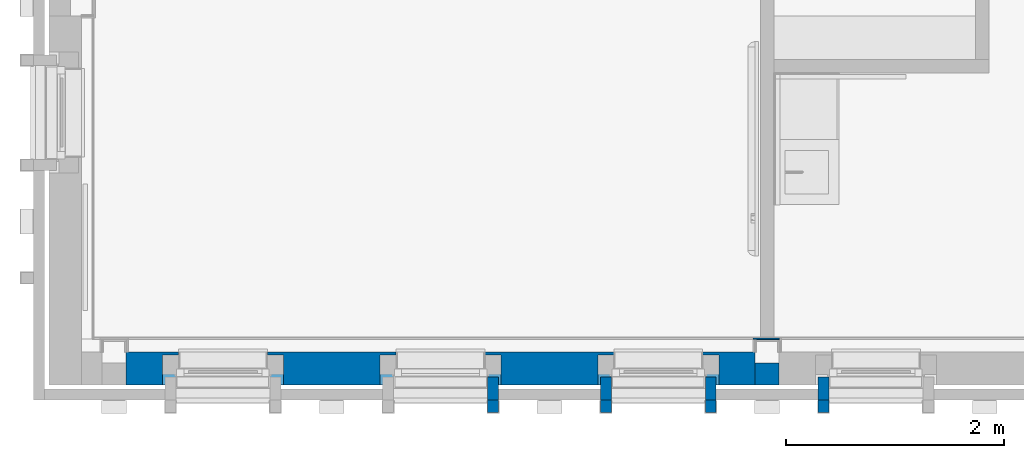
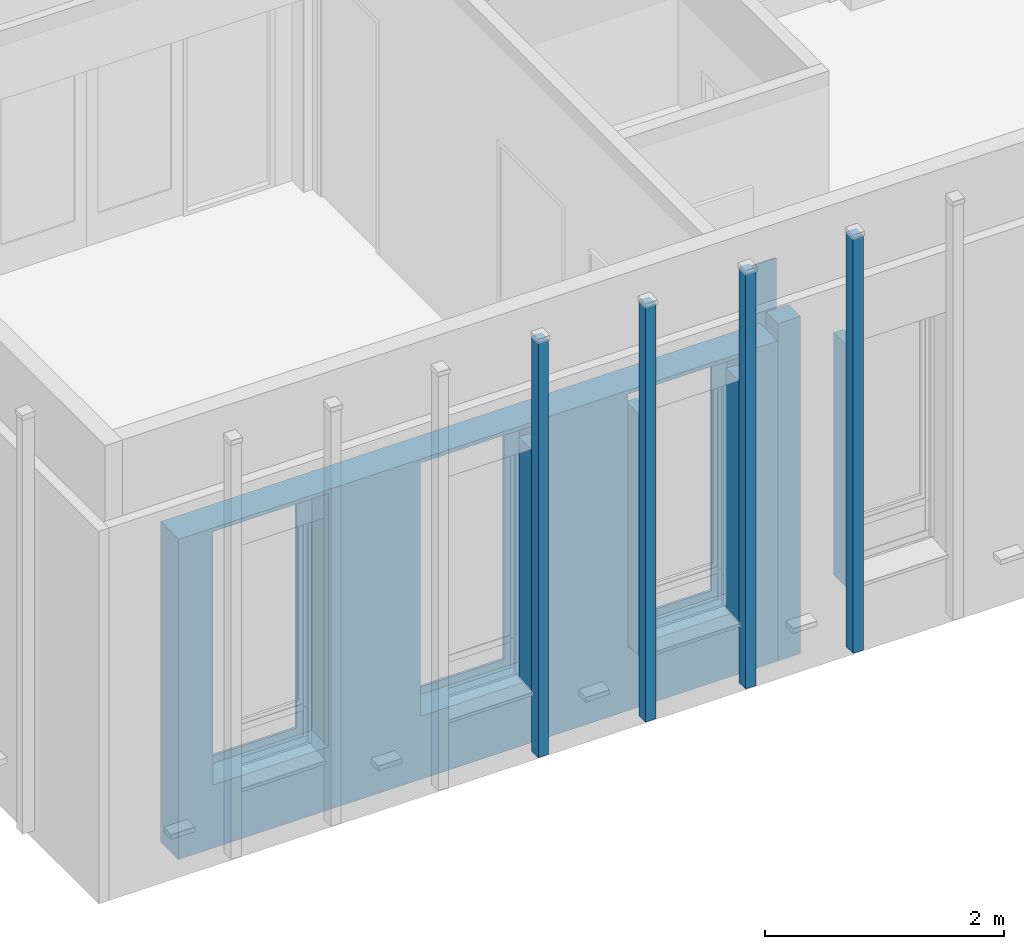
# One storey, part 25 of 118: 11 walls, 12 openings.
"""IFC2X3 building model written with IfcOpenShell, lengths in millimetres."""

from ifc_helpers import new_model, entity, si_unit, converted_unit, derived_unit, direction, frame, frame_2d, origin, place, context, subcontext, project, spatial, rectangle, extrude, faceted_brep, material, layer, layer_set, layer_usage, type_object, element, save


model = new_model("IFC2X3")

# Units and contexts
model_context = context("Model", 3, precision=0.01, world=origin(), true_north=direction((6.123031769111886e-17, 1.0)))
plan_context = context("Plan", 3, precision=0.01, world=origin(), true_north=direction((6.123031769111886e-17, 1.0)))
body_context = subcontext(model_context, "Body", "Model", "MODEL_VIEW")
ifc_project = project(units=[si_unit("LENGTHUNIT", "METRE", prefix="MILLI"), si_unit("AREAUNIT", "SQUARE_METRE"), si_unit("VOLUMEUNIT", "CUBIC_METRE"), converted_unit("PLANEANGLEUNIT", "DEGREE", entity("IfcRatioMeasure", 0.017453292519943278), si_unit("PLANEANGLEUNIT", "RADIAN"), dimensions=[0, 0, 0, 0, 0, 0, 0]), si_unit("MASSUNIT", "GRAM", prefix="KILO"), derived_unit("MASSDENSITYUNIT", [(si_unit("MASSUNIT", "GRAM", prefix="KILO"), 1), (si_unit("LENGTHUNIT", "METRE"), -3)]), derived_unit("IONCONCENTRATIONUNIT", [(si_unit("MASSUNIT", "GRAM", prefix="KILO"), 1), (si_unit("LENGTHUNIT", "METRE"), -3)]), derived_unit("MOMENTOFINERTIAUNIT", [(si_unit("LENGTHUNIT", "METRE"), 4)]), si_unit("TIMEUNIT", "SECOND"), si_unit("FREQUENCYUNIT", "HERTZ"), si_unit("THERMODYNAMICTEMPERATUREUNIT", "DEGREE_CELSIUS"), derived_unit("THERMALTRANSMITTANCEUNIT", [(si_unit("MASSUNIT", "GRAM", prefix="KILO"), 1), (si_unit("THERMODYNAMICTEMPERATUREUNIT", "KELVIN"), -1), (si_unit("TIMEUNIT", "SECOND"), -3)]), derived_unit("THERMALCONDUCTANCEUNIT", [(si_unit("MASSUNIT", "GRAM", prefix="KILO"), 1), (si_unit("THERMODYNAMICTEMPERATUREUNIT", "KELVIN"), -1), (si_unit("TIMEUNIT", "SECOND"), -3), (si_unit("LENGTHUNIT", "METRE"), 1)]), derived_unit("VOLUMETRICFLOWRATEUNIT", [(si_unit("LENGTHUNIT", "METRE"), 3), (si_unit("TIMEUNIT", "SECOND"), -1)]), derived_unit("MASSFLOWRATEUNIT", [(si_unit("MASSUNIT", "GRAM", prefix="KILO"), 1), (si_unit("TIMEUNIT", "SECOND"), -1)]), derived_unit("ROTATIONALFREQUENCYUNIT", [(si_unit("TIMEUNIT", "SECOND"), -1)]), si_unit("ELECTRICCURRENTUNIT", "AMPERE"), si_unit("ELECTRICVOLTAGEUNIT", "VOLT"), si_unit("POWERUNIT", "WATT"), si_unit("FORCEUNIT", "NEWTON", prefix="KILO"), si_unit("ILLUMINANCEUNIT", "LUX"), si_unit("LUMINOUSFLUXUNIT", "LUMEN"), si_unit("LUMINOUSINTENSITYUNIT", "CANDELA"), derived_unit("USERDEFINED", [(si_unit("MASSUNIT", "GRAM", prefix="KILO"), -1), (si_unit("LENGTHUNIT", "METRE"), -2), (si_unit("TIMEUNIT", "SECOND"), 3), (si_unit("LUMINOUSFLUXUNIT", "LUMEN"), 1)]), derived_unit("USERDEFINED", [(si_unit("MASSUNIT", "GRAM", prefix="KILO"), 1), (si_unit("TIMEUNIT", "SECOND"), -3), (si_unit("LENGTHUNIT", "METRE"), 3), (si_unit("ELECTRICCURRENTUNIT", "AMPERE"), -2)]), derived_unit("SOUNDPOWERUNIT", [(si_unit("MASSUNIT", "GRAM", prefix="KILO"), 1), (si_unit("TIMEUNIT", "SECOND"), -3), (si_unit("LENGTHUNIT", "METRE"), 2)]), derived_unit("SOUNDPRESSUREUNIT", [(si_unit("MASSUNIT", "GRAM", prefix="KILO"), 1), (si_unit("LENGTHUNIT", "METRE"), -1), (si_unit("TIMEUNIT", "SECOND"), -2)]), derived_unit("LINEARVELOCITYUNIT", [(si_unit("LENGTHUNIT", "METRE"), 1), (si_unit("TIMEUNIT", "SECOND"), -1)]), si_unit("PRESSUREUNIT", "PASCAL"), derived_unit("USERDEFINED", [(si_unit("MASSUNIT", "GRAM", prefix="KILO"), 1), (si_unit("LENGTHUNIT", "METRE"), -2), (si_unit("TIMEUNIT", "SECOND"), -2)]), derived_unit("LINEARFORCEUNIT", [(si_unit("MASSUNIT", "GRAM", prefix="KILO"), 1), (si_unit("TIMEUNIT", "SECOND"), -2)]), derived_unit("PLANARFORCEUNIT", [(si_unit("MASSUNIT", "GRAM", prefix="KILO"), 1), (si_unit("LENGTHUNIT", "METRE"), -1), (si_unit("TIMEUNIT", "SECOND"), -2)]), derived_unit("SPECIFICHEATCAPACITYUNIT", [(si_unit("THERMODYNAMICTEMPERATUREUNIT", "KELVIN"), -1), (si_unit("LENGTHUNIT", "METRE"), 2), (si_unit("TIMEUNIT", "SECOND"), -2)]), derived_unit("HEATINGVALUEUNIT", [(si_unit("LENGTHUNIT", "METRE"), 2), (si_unit("TIMEUNIT", "SECOND"), -2)]), derived_unit("VAPORPERMEABILITYUNIT", [(si_unit("LENGTHUNIT", "METRE"), -1), (si_unit("TIMEUNIT", "SECOND"), 1)]), derived_unit("DYNAMICVISCOSITYUNIT", [(si_unit("MASSUNIT", "GRAM", prefix="KILO"), 1), (si_unit("TIMEUNIT", "SECOND"), -1), (si_unit("LENGTHUNIT", "METRE"), -1)]), derived_unit("THERMALEXPANSIONCOEFFICIENTUNIT", [(si_unit("THERMODYNAMICTEMPERATUREUNIT", "KELVIN"), -1)]), derived_unit("MODULUSOFELASTICITYUNIT", [(si_unit("MASSUNIT", "GRAM", prefix="KILO"), 1), (si_unit("LENGTHUNIT", "METRE"), -1), (si_unit("TIMEUNIT", "SECOND"), -2)]), derived_unit("ISOTHERMALMOISTURECAPACITYUNIT", [(si_unit("LENGTHUNIT", "METRE"), 3), (si_unit("MASSUNIT", "GRAM", prefix="KILO"), -1)]), derived_unit("MOISTUREDIFFUSIVITYUNIT", [(si_unit("TIMEUNIT", "SECOND"), -1), (si_unit("LENGTHUNIT", "METRE"), 2)])], contexts=[model_context, plan_context])

# Site, building, storey
site_placement = place(None, origin())
site = spatial("IfcSite", under=ifc_project, at=site_placement, Name="Locatie", CompositionType="ELEMENT")
building_placement = place(site_placement, origin())
building = spatial("IfcBuilding", under=site, at=building_placement, Name="Bouwwerk", CompositionType="ELEMENT")
storey_placement = place(building_placement, frame((0.0, 0.0, 7800.0)))
storey = spatial("IfcBuildingStorey", under=building, at=storey_placement, Name="02 tweede verdieping", CompositionType="ELEMENT", Elevation=7800.000000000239)

# Wall, openings
ifc_material_1 = material(Name="n7_isolatie_glaswol")
ifc_layer_1 = layer(ifc_material_1, 30.0)
ifc_layer_2 = layer(ifc_material_1, 245.0)
ifc_material_2 = material(Name="i4_multiplex")
ifc_layer_3 = layer(ifc_material_2, 12.0)
ifc_material_3 = material(Name="f7_gipsvezel")
ifc_layer_4 = layer(ifc_material_3, 13.000000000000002)
ifc_layer_set_1 = layer_set([ifc_layer_1, ifc_layer_2, ifc_layer_3, ifc_layer_4], Name="Basic Wall:NLRS_22_WA_HSB bispouw 30-245-12-13 glaswol_gen_ISR")
ifc_layer_usage_1 = layer_usage(ifc_layer_set_1, "AXIS2", "NEGATIVE", 150.0)
wall_type_1 = type_object("IfcWallType", Name="Basic Wall:NLRS_22_WA_HSB bispouw 30-245-12-13 glaswol_gen_ISR", PredefinedType="STANDARD", material=ifc_layer_set_1)
wall_1_placement = place(storey_placement, frame((16190.0, 9850.0, -30.0), z_axis=(0.0, 0.0, 1.0), x_axis=(-1.0, 0.0, 0.0)))
wall_1 = element("IfcWallStandardCase", 1, at=wall_1_placement, inside=storey, type_object=wall_type_1, material=ifc_layer_usage_1, Name="Basic Wall:NLRS_22_WA_HSB bispouw 30-245-12-13 glaswol_gen_ISR", ObjectType="Basic Wall:NLRS_22_WA_HSB bispouw 30-245-12-13 glaswol_gen_ISR", context=body_context, shape_type="SweptSolid", body=[
    extrude(rectangle(XDim=5779.999999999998, YDim=300.0000000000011, at=frame_2d((2889.999999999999, 0.0), x_axis=(-1.0, 0.0))), origin(), (0.0, 0.0, 1.0), 3265.9999999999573),
])
opening_1_placement = place(wall_1_placement, frame((-10554.0, 290.0, 633.0)))
element("IfcOpeningElement", 2, at=opening_1_placement, cuts=wall_1, Name="Basic Wall:NLRS_22_WA_HSB bispouw 30-245-12-13 glaswol_gen_ISR", ObjectType="Opening", context=body_context, shape_type="Brep", body=[
    faceted_brep([(-24.0, -100.0, 2472.0), (-103.0, -100.0, 2472.0), (-103.0, -100.0, 42.0), (-1009.0, -100.0, 42.0), (-1009.0, -100.0, 2472.0), (-1088.0, -100.0, 2472.0), (-1088.0, -100.0, 0.0), (-24.0, -100.0, 0.0), (-1088.0, 0.0, 2472.0), (-24.0, 0.0, 2472.0), (-24.0, 0.0, 0.0), (-1088.0, 0.0, 0.0), (-1112.0, -415.0, 2594.0), (-1112.0, -415.0, 11.0), (0.0, -415.0, 11.0), (0.0, -415.0, 2594.0), (-964.0, -415.0, 2443.0), (-148.0, -415.0, 2443.0), (-148.0, -415.0, 87.0), (-964.0, -415.0, 87.0), (-1112.0, -140.0, 2594.0), (0.0, -140.0, 2594.0), (0.0, -140.0, 11.0), (-1112.0, -140.0, 11.0), (-1009.0, -140.0, 42.0), (-103.0, -140.0, 42.0), (-103.0, -140.0, 2508.0), (-1009.0, -140.0, 2508.0), (-103.0, -100.0, 2508.0), (-1009.0, -100.0, 2508.0), (-964.0, -615.0, 2443.0), (-964.0, -615.0, 87.0), (-148.0, -615.0, 87.0), (-148.0, -615.0, 2443.0)], [[[0, 1, 2, 3, 4, 5, 6, 7]], [[8, 9, 10, 11]], [[5, 8, 11, 6]], [[6, 11, 10, 7]], [[7, 10, 9, 0]], [[8, 5, 4, 1, 0, 9]], [[12, 13, 14, 15], [16, 17, 18, 19]], [[20, 21, 22, 23], [24, 25, 26, 27]], [[12, 20, 23, 13]], [[13, 23, 22, 14]], [[14, 22, 21, 15]], [[15, 21, 20, 12]], [[28, 1, 4, 29]], [[24, 27, 29, 4, 3]], [[3, 2, 25, 24]], [[2, 1, 28, 26, 25]], [[29, 27, 26, 28]], [[30, 31, 32, 33]], [[30, 16, 19, 31]], [[31, 19, 18, 32]], [[32, 18, 17, 33]], [[33, 17, 16, 30]]]),
])
opening_2_placement = place(wall_1_placement, frame((-8554.0, 290.0, 633.0)))
element("IfcOpeningElement", 3, at=opening_2_placement, cuts=wall_1, Name="Basic Wall:NLRS_22_WA_HSB bispouw 30-245-12-13 glaswol_gen_ISR", ObjectType="Opening", context=body_context, shape_type="Brep", body=[
    faceted_brep([(-24.0, -100.0, 2472.0), (-103.0, -100.0, 2472.0), (-103.0, -100.0, 42.0), (-1009.0, -100.0, 42.0), (-1009.0, -100.0, 2472.0), (-1088.0, -100.0, 2472.0), (-1088.0, -100.0, 0.0), (-24.0, -100.0, 0.0), (-1088.0, 0.0, 2472.0), (-24.0, 0.0, 2472.0), (-24.0, 0.0, 0.0), (-1088.0, 0.0, 0.0), (-1112.0, -415.0, 2594.0), (-1112.0, -415.0, 11.0), (0.0, -415.0, 11.0), (0.0, -415.0, 2594.0), (-964.0, -415.0, 2443.0), (-148.0, -415.0, 2443.0), (-148.0, -415.0, 87.0), (-964.0, -415.0, 87.0), (-1112.0, -140.0, 2594.0), (0.0, -140.0, 2594.0), (0.0, -140.0, 11.0), (-1112.0, -140.0, 11.0), (-1009.0, -140.0, 42.0), (-103.0, -140.0, 42.0), (-103.0, -140.0, 2508.0), (-1009.0, -140.0, 2508.0), (-103.0, -100.0, 2508.0), (-1009.0, -100.0, 2508.0), (-964.0, -615.0, 2443.0), (-964.0, -615.0, 87.0), (-148.0, -615.0, 87.0), (-148.0, -615.0, 2443.0)], [[[0, 1, 2, 3, 4, 5, 6, 7]], [[8, 9, 10, 11]], [[5, 8, 11, 6]], [[6, 11, 10, 7]], [[7, 10, 9, 0]], [[8, 5, 4, 1, 0, 9]], [[12, 13, 14, 15], [16, 17, 18, 19]], [[20, 21, 22, 23], [24, 25, 26, 27]], [[12, 20, 23, 13]], [[13, 23, 22, 14]], [[14, 22, 21, 15]], [[15, 21, 20, 12]], [[28, 1, 4, 29]], [[24, 27, 29, 4, 3]], [[3, 2, 25, 24]], [[2, 1, 28, 26, 25]], [[29, 27, 26, 28]], [[30, 31, 32, 33]], [[30, 16, 19, 31]], [[31, 19, 18, 32]], [[32, 18, 17, 33]], [[33, 17, 16, 30]]]),
])
opening_3_placement = place(wall_1_placement, frame((-16554.0, 290.0, 633.0)))
element("IfcOpeningElement", 4, at=opening_3_placement, cuts=wall_1, Name="Basic Wall:NLRS_22_WA_HSB bispouw 30-245-12-13 glaswol_gen_ISR", ObjectType="Opening", context=body_context, shape_type="Brep", body=[
    faceted_brep([(-24.0, -100.0, 2472.0), (-103.0, -100.0, 2472.0), (-103.0, -100.0, 42.0), (-1009.0, -100.0, 42.0), (-1009.0, -100.0, 2472.0), (-1088.0, -100.0, 2472.0), (-1088.0, -100.0, 0.0), (-24.0, -100.0, 0.0), (-1088.0, 0.0, 2472.0), (-24.0, 0.0, 2472.0), (-24.0, 0.0, 0.0), (-1088.0, 0.0, 0.0), (-1112.0, -415.0, 2594.0), (-1112.0, -415.0, 11.0), (0.0, -415.0, 11.0), (0.0, -415.0, 2594.0), (-964.0, -415.0, 2443.0), (-148.0, -415.0, 2443.0), (-148.0, -415.0, 87.0), (-964.0, -415.0, 87.0), (-1112.0, -140.0, 2594.0), (0.0, -140.0, 2594.0), (0.0, -140.0, 11.0), (-1112.0, -140.0, 11.0), (-1009.0, -140.0, 42.0), (-103.0, -140.0, 42.0), (-103.0, -140.0, 2508.0), (-1009.0, -140.0, 2508.0), (-103.0, -100.0, 2508.0), (-1009.0, -100.0, 2508.0), (-964.0, -615.0, 2443.0), (-964.0, -615.0, 87.0), (-148.0, -615.0, 87.0), (-148.0, -615.0, 2443.0)], [[[0, 1, 2, 3, 4, 5, 6, 7]], [[8, 9, 10, 11]], [[5, 8, 11, 6]], [[6, 11, 10, 7]], [[7, 10, 9, 0]], [[8, 5, 4, 1, 0, 9]], [[12, 13, 14, 15], [16, 17, 18, 19]], [[20, 21, 22, 23], [24, 25, 26, 27]], [[12, 20, 23, 13]], [[13, 23, 22, 14]], [[14, 22, 21, 15]], [[15, 21, 20, 12]], [[28, 1, 4, 29]], [[24, 27, 29, 4, 3]], [[3, 2, 25, 24]], [[2, 1, 28, 26, 25]], [[29, 27, 26, 28]], [[30, 31, 32, 33]], [[30, 16, 19, 31]], [[31, 19, 18, 32]], [[32, 18, 17, 33]], [[33, 17, 16, 30]]]),
])
opening_4_placement = place(wall_1_placement, frame((-14554.0, 290.0, 633.0)))
element("IfcOpeningElement", 5, at=opening_4_placement, cuts=wall_1, Name="Basic Wall:NLRS_22_WA_HSB bispouw 30-245-12-13 glaswol_gen_ISR", ObjectType="Opening", context=body_context, shape_type="Brep", body=[
    faceted_brep([(-24.0, -100.0, 2472.0), (-103.0, -100.0, 2472.0), (-103.0, -100.0, 42.0), (-1009.0, -100.0, 42.0), (-1009.0, -100.0, 2472.0), (-1088.0, -100.0, 2472.0), (-1088.0, -100.0, 0.0), (-24.0, -100.0, 0.0), (-1088.0, 0.0, 2472.0), (-24.0, 0.0, 2472.0), (-24.0, 0.0, 0.0), (-1088.0, 0.0, 0.0), (-1112.0, -415.0, 2594.0), (-1112.0, -415.0, 11.0), (0.0, -415.0, 11.0), (0.0, -415.0, 2594.0), (-964.0, -415.0, 2443.0), (-148.0, -415.0, 2443.0), (-148.0, -415.0, 87.0), (-964.0, -415.0, 87.0), (-1112.0, -140.0, 2594.0), (0.0, -140.0, 2594.0), (0.0, -140.0, 11.0), (-1112.0, -140.0, 11.0), (-1009.0, -140.0, 42.0), (-103.0, -140.0, 42.0), (-103.0, -140.0, 2508.0), (-1009.0, -140.0, 2508.0), (-103.0, -100.0, 2508.0), (-1009.0, -100.0, 2508.0), (-964.0, -615.0, 2443.0), (-964.0, -615.0, 87.0), (-148.0, -615.0, 87.0), (-148.0, -615.0, 2443.0)], [[[0, 1, 2, 3, 4, 5, 6, 7]], [[8, 9, 10, 11]], [[5, 8, 11, 6]], [[6, 11, 10, 7]], [[7, 10, 9, 0]], [[8, 5, 4, 1, 0, 9]], [[12, 13, 14, 15], [16, 17, 18, 19]], [[20, 21, 22, 23], [24, 25, 26, 27]], [[12, 20, 23, 13]], [[13, 23, 22, 14]], [[14, 22, 21, 15]], [[15, 21, 20, 12]], [[28, 1, 4, 29]], [[24, 27, 29, 4, 3]], [[3, 2, 25, 24]], [[2, 1, 28, 26, 25]], [[29, 27, 26, 28]], [[30, 31, 32, 33]], [[30, 16, 19, 31]], [[31, 19, 18, 32]], [[32, 18, 17, 33]], [[33, 17, 16, 30]]]),
])
opening_5_placement = place(wall_1_placement, frame((-12554.0, 290.0, 633.0)))
element("IfcOpeningElement", 6, at=opening_5_placement, cuts=wall_1, Name="Basic Wall:NLRS_22_WA_HSB bispouw 30-245-12-13 glaswol_gen_ISR", ObjectType="Opening", context=body_context, shape_type="Brep", body=[
    faceted_brep([(-24.0, -100.0, 2472.0), (-103.0, -100.0, 2472.0), (-103.0, -100.0, 42.0), (-1009.0, -100.0, 42.0), (-1009.0, -100.0, 2472.0), (-1088.0, -100.0, 2472.0), (-1088.0, -100.0, 0.0), (-24.0, -100.0, 0.0), (-1088.0, 0.0, 2472.0), (-24.0, 0.0, 2472.0), (-24.0, 0.0, 0.0), (-1088.0, 0.0, 0.0), (-1112.0, -415.0, 2594.0), (-1112.0, -415.0, 11.0), (0.0, -415.0, 11.0), (0.0, -415.0, 2594.0), (-964.0, -415.0, 2443.0), (-148.0, -415.0, 2443.0), (-148.0, -415.0, 87.0), (-964.0, -415.0, 87.0), (-1112.0, -140.0, 2594.0), (0.0, -140.0, 2594.0), (0.0, -140.0, 11.0), (-1112.0, -140.0, 11.0), (-1009.0, -140.0, 42.0), (-103.0, -140.0, 42.0), (-103.0, -140.0, 2508.0), (-1009.0, -140.0, 2508.0), (-103.0, -100.0, 2508.0), (-1009.0, -100.0, 2508.0), (-964.0, -615.0, 2443.0), (-964.0, -615.0, 87.0), (-148.0, -615.0, 87.0), (-148.0, -615.0, 2443.0)], [[[0, 1, 2, 3, 4, 5, 6, 7]], [[8, 9, 10, 11]], [[5, 8, 11, 6]], [[6, 11, 10, 7]], [[7, 10, 9, 0]], [[8, 5, 4, 1, 0, 9]], [[12, 13, 14, 15], [16, 17, 18, 19]], [[20, 21, 22, 23], [24, 25, 26, 27]], [[12, 20, 23, 13]], [[13, 23, 22, 14]], [[14, 22, 21, 15]], [[15, 21, 20, 12]], [[28, 1, 4, 29]], [[24, 27, 29, 4, 3]], [[3, 2, 25, 24]], [[2, 1, 28, 26, 25]], [[29, 27, 26, 28]], [[30, 31, 32, 33]], [[30, 16, 19, 31]], [[31, 19, 18, 32]], [[32, 18, 17, 33]], [[33, 17, 16, 30]]]),
])
opening_6_placement = place(wall_1_placement, frame((-4554.0, 290.0, 633.0)))
element("IfcOpeningElement", 7, at=opening_6_placement, cuts=wall_1, Name="Basic Wall:NLRS_22_WA_HSB bispouw 30-245-12-13 glaswol_gen_ISR", ObjectType="Opening", context=body_context, shape_type="Brep", body=[
    faceted_brep([(-24.0, -100.0, 2472.0), (-103.0, -100.0, 2472.0), (-103.0, -100.0, 42.0), (-1009.0, -100.0, 42.0), (-1009.0, -100.0, 2472.0), (-1088.0, -100.0, 2472.0), (-1088.0, -100.0, 0.0), (-24.0, -100.0, 0.0), (-1088.0, 0.0, 2472.0), (-24.0, 0.0, 2472.0), (-24.0, 0.0, 0.0), (-1088.0, 0.0, 0.0), (-1112.0, -415.0, 2594.0), (-1112.0, -415.0, 11.0), (0.0, -415.0, 11.0), (0.0, -415.0, 2594.0), (-964.0, -415.0, 2443.0), (-148.0, -415.0, 2443.0), (-148.0, -415.0, 87.0), (-964.0, -415.0, 87.0), (-1112.0, -140.0, 2594.0), (0.0, -140.0, 2594.0), (0.0, -140.0, 11.0), (-1112.0, -140.0, 11.0), (-1009.0, -140.0, 42.0), (-103.0, -140.0, 42.0), (-103.0, -140.0, 2508.0), (-1009.0, -140.0, 2508.0), (-103.0, -100.0, 2508.0), (-1009.0, -100.0, 2508.0), (-964.0, -615.0, 2443.0), (-964.0, -615.0, 87.0), (-148.0, -615.0, 87.0), (-148.0, -615.0, 2443.0)], [[[0, 1, 2, 3, 4, 5, 6, 7]], [[8, 9, 10, 11]], [[5, 8, 11, 6]], [[6, 11, 10, 7]], [[7, 10, 9, 0]], [[8, 5, 4, 1, 0, 9]], [[12, 13, 14, 15], [16, 17, 18, 19]], [[20, 21, 22, 23], [24, 25, 26, 27]], [[12, 20, 23, 13]], [[13, 23, 22, 14]], [[14, 22, 21, 15]], [[15, 21, 20, 12]], [[28, 1, 4, 29]], [[24, 27, 29, 4, 3]], [[3, 2, 25, 24]], [[2, 1, 28, 26, 25]], [[29, 27, 26, 28]], [[30, 31, 32, 33]], [[30, 16, 19, 31]], [[31, 19, 18, 32]], [[32, 18, 17, 33]], [[33, 17, 16, 30]]]),
])
opening_7_placement = place(wall_1_placement, frame((-2554.0, 290.0, 633.0)))
element("IfcOpeningElement", 8, at=opening_7_placement, cuts=wall_1, Name="Basic Wall:NLRS_22_WA_HSB bispouw 30-245-12-13 glaswol_gen_ISR", ObjectType="Opening", context=body_context, shape_type="Brep", body=[
    faceted_brep([(-24.0, -100.0, 2472.0), (-103.0, -100.0, 2472.0), (-103.0, -100.0, 42.0), (-1009.0, -100.0, 42.0), (-1009.0, -100.0, 2472.0), (-1088.0, -100.0, 2472.0), (-1088.0, -100.0, 0.0), (-24.0, -100.0, 0.0), (-1088.0, 0.0, 2472.0), (-24.0, 0.0, 2472.0), (-24.0, 0.0, 0.0), (-1088.0, 0.0, 0.0), (-1112.0, -415.0, 2594.0), (-1112.0, -415.0, 11.0), (0.0, -415.0, 11.0), (0.0, -415.0, 2594.0), (-964.0, -415.0, 2443.0), (-148.0, -415.0, 2443.0), (-148.0, -415.0, 87.0), (-964.0, -415.0, 87.0), (-1112.0, -140.0, 2594.0), (0.0, -140.0, 2594.0), (0.0, -140.0, 11.0), (-1112.0, -140.0, 11.0), (-1009.0, -140.0, 42.0), (-103.0, -140.0, 42.0), (-103.0, -140.0, 2508.0), (-1009.0, -140.0, 2508.0), (-103.0, -100.0, 2508.0), (-1009.0, -100.0, 2508.0), (-964.0, -615.0, 2443.0), (-964.0, -615.0, 87.0), (-148.0, -615.0, 87.0), (-148.0, -615.0, 2443.0)], [[[0, 1, 2, 3, 4, 5, 6, 7]], [[8, 9, 10, 11]], [[5, 8, 11, 6]], [[6, 11, 10, 7]], [[7, 10, 9, 0]], [[8, 5, 4, 1, 0, 9]], [[12, 13, 14, 15], [16, 17, 18, 19]], [[20, 21, 22, 23], [24, 25, 26, 27]], [[12, 20, 23, 13]], [[13, 23, 22, 14]], [[14, 22, 21, 15]], [[15, 21, 20, 12]], [[28, 1, 4, 29]], [[24, 27, 29, 4, 3]], [[3, 2, 25, 24]], [[2, 1, 28, 26, 25]], [[29, 27, 26, 28]], [[30, 31, 32, 33]], [[30, 16, 19, 31]], [[31, 19, 18, 32]], [[32, 18, 17, 33]], [[33, 17, 16, 30]]]),
])
opening_8_placement = place(wall_1_placement, frame((-554.0, 290.0, 633.0)))
element("IfcOpeningElement", 9, at=opening_8_placement, cuts=wall_1, Name="Basic Wall:NLRS_22_WA_HSB bispouw 30-245-12-13 glaswol_gen_ISR", ObjectType="Opening", context=body_context, shape_type="Brep", body=[
    faceted_brep([(-24.0, -100.0, 2472.0), (-103.0, -100.0, 2472.0), (-103.0, -100.0, 42.0), (-1009.0, -100.0, 42.0), (-1009.0, -100.0, 2472.0), (-1088.0, -100.0, 2472.0), (-1088.0, -100.0, 0.0), (-24.0, -100.0, 0.0), (-1088.0, 0.0, 2472.0), (-24.0, 0.0, 2472.0), (-24.0, 0.0, 0.0), (-1088.0, 0.0, 0.0), (-1112.0, -415.0, 2594.0), (-1112.0, -415.0, 11.0), (0.0, -415.0, 11.0), (0.0, -415.0, 2594.0), (-964.0, -415.0, 2443.0), (-148.0, -415.0, 2443.0), (-148.0, -415.0, 87.0), (-964.0, -415.0, 87.0), (-1112.0, -140.0, 2594.0), (0.0, -140.0, 2594.0), (0.0, -140.0, 11.0), (-1112.0, -140.0, 11.0), (-1009.0, -140.0, 42.0), (-103.0, -140.0, 42.0), (-103.0, -140.0, 2508.0), (-1009.0, -140.0, 2508.0), (-103.0, -100.0, 2508.0), (-1009.0, -100.0, 2508.0), (-964.0, -615.0, 2443.0), (-964.0, -615.0, 87.0), (-148.0, -615.0, 87.0), (-148.0, -615.0, 2443.0)], [[[0, 1, 2, 3, 4, 5, 6, 7]], [[8, 9, 10, 11]], [[5, 8, 11, 6]], [[6, 11, 10, 7]], [[7, 10, 9, 0]], [[8, 5, 4, 1, 0, 9]], [[12, 13, 14, 15], [16, 17, 18, 19]], [[20, 21, 22, 23], [24, 25, 26, 27]], [[12, 20, 23, 13]], [[13, 23, 22, 14]], [[14, 22, 21, 15]], [[15, 21, 20, 12]], [[28, 1, 4, 29]], [[24, 27, 29, 4, 3]], [[3, 2, 25, 24]], [[2, 1, 28, 26, 25]], [[29, 27, 26, 28]], [[30, 31, 32, 33]], [[30, 16, 19, 31]], [[31, 19, 18, 32]], [[32, 18, 17, 33]], [[33, 17, 16, 30]]]),
])
opening_9_placement = place(wall_1_placement, frame((-6554.0, 290.0, 633.0)))
element("IfcOpeningElement", 10, at=opening_9_placement, cuts=wall_1, Name="Basic Wall:NLRS_22_WA_HSB bispouw 30-245-12-13 glaswol_gen_ISR", ObjectType="Opening", context=body_context, shape_type="Brep", body=[
    faceted_brep([(-24.0, -100.0, 2472.0), (-103.0, -100.0, 2472.0), (-103.0, -100.0, 42.0), (-1009.0, -100.0, 42.0), (-1009.0, -100.0, 2472.0), (-1088.0, -100.0, 2472.0), (-1088.0, -100.0, 0.0), (-24.0, -100.0, 0.0), (-1088.0, 0.0, 2472.0), (-24.0, 0.0, 2472.0), (-24.0, 0.0, 0.0), (-1088.0, 0.0, 0.0), (-1112.0, -415.0, 2594.0), (-1112.0, -415.0, 11.0), (0.0, -415.0, 11.0), (0.0, -415.0, 2594.0), (-964.0, -415.0, 2443.0), (-148.0, -415.0, 2443.0), (-148.0, -415.0, 87.0), (-964.0, -415.0, 87.0), (-1112.0, -140.0, 2594.0), (0.0, -140.0, 2594.0), (0.0, -140.0, 11.0), (-1112.0, -140.0, 11.0), (-1009.0, -140.0, 42.0), (-103.0, -140.0, 42.0), (-103.0, -140.0, 2508.0), (-1009.0, -140.0, 2508.0), (-103.0, -100.0, 2508.0), (-1009.0, -100.0, 2508.0), (-964.0, -615.0, 2443.0), (-964.0, -615.0, 87.0), (-148.0, -615.0, 87.0), (-148.0, -615.0, 2443.0)], [[[0, 1, 2, 3, 4, 5, 6, 7]], [[8, 9, 10, 11]], [[5, 8, 11, 6]], [[6, 11, 10, 7]], [[7, 10, 9, 0]], [[8, 5, 4, 1, 0, 9]], [[12, 13, 14, 15], [16, 17, 18, 19]], [[20, 21, 22, 23], [24, 25, 26, 27]], [[12, 20, 23, 13]], [[13, 23, 22, 14]], [[14, 22, 21, 15]], [[15, 21, 20, 12]], [[28, 1, 4, 29]], [[24, 27, 29, 4, 3]], [[3, 2, 25, 24]], [[2, 1, 28, 26, 25]], [[29, 27, 26, 28]], [[30, 31, 32, 33]], [[30, 16, 19, 31]], [[31, 19, 18, 32]], [[32, 18, 17, 33]], [[33, 17, 16, 30]]]),
])
opening_10_placement = place(wall_1_placement, frame((5446.0, 290.0, 633.0), z_axis=(0.0, 0.0, 1.0), x_axis=(-1.0, 0.0, 0.0)))
element("IfcOpeningElement", 11, at=opening_10_placement, cuts=wall_1, Name="Basic Wall:NLRS_22_WA_HSB bispouw 30-245-12-13 glaswol_gen_ISR", ObjectType="Opening", context=body_context, shape_type="Brep", body=[
    faceted_brep([(24.0, 100.0, 2472.0), (103.0, 100.0, 2472.0), (103.0, 100.0, 42.0), (1009.0, 100.0, 42.0), (1009.0, 100.0, 2472.0), (1088.0, 100.0, 2472.0), (1088.0, 100.0, 0.0), (24.0, 100.0, 0.0), (1088.0, 0.0, 2472.0), (24.0, 0.0, 2472.0), (24.0, 0.0, 0.0), (1088.0, 0.0, 0.0), (1112.0, 415.0, 2594.0), (1112.0, 415.0, 11.0), (0.0, 415.0, 11.0), (0.0, 415.0, 2594.0), (964.0, 415.0, 2443.0), (148.0, 415.0, 2443.0), (148.0, 415.0, 87.0), (964.0, 415.0, 87.0), (1112.0, 140.0, 2594.0), (0.0, 140.0, 2594.0), (0.0, 140.0, 11.0), (1112.0, 140.0, 11.0), (1009.0, 140.0, 42.0), (103.0, 140.0, 42.0), (103.0, 140.0, 2508.0), (1009.0, 140.0, 2508.0), (103.0, 100.0, 2508.0), (1009.0, 100.0, 2508.0), (964.0, 615.0, 2443.0), (964.0, 615.0, 87.0), (148.0, 615.0, 87.0), (148.0, 615.0, 2443.0)], [[[0, 1, 2, 3, 4, 5, 6, 7]], [[8, 9, 10, 11]], [[5, 8, 11, 6]], [[6, 11, 10, 7]], [[7, 10, 9, 0]], [[8, 5, 4, 1, 0, 9]], [[12, 13, 14, 15], [16, 17, 18, 19]], [[20, 21, 22, 23], [24, 25, 26, 27]], [[12, 20, 23, 13]], [[13, 23, 22, 14]], [[14, 22, 21, 15]], [[15, 21, 20, 12]], [[28, 1, 4, 29]], [[24, 27, 29, 4, 3]], [[3, 2, 25, 24]], [[2, 1, 28, 26, 25]], [[29, 27, 26, 28]], [[30, 31, 32, 33]], [[30, 16, 19, 31]], [[31, 19, 18, 32]], [[32, 18, 17, 33]], [[33, 17, 16, 30]]]),
])
opening_11_placement = place(wall_1_placement, frame((3446.0, 290.0, 633.0), z_axis=(0.0, 0.0, 1.0), x_axis=(-1.0, 0.0, 0.0)))
element("IfcOpeningElement", 12, at=opening_11_placement, cuts=wall_1, Name="Basic Wall:NLRS_22_WA_HSB bispouw 30-245-12-13 glaswol_gen_ISR", ObjectType="Opening", context=body_context, shape_type="Brep", body=[
    faceted_brep([(24.0, 100.0, 2472.0), (103.0, 100.0, 2472.0), (103.0, 100.0, 42.0), (1009.0, 100.0, 42.0), (1009.0, 100.0, 2472.0), (1088.0, 100.0, 2472.0), (1088.0, 100.0, 0.0), (24.0, 100.0, 0.0), (1088.0, 0.0, 2472.0), (24.0, 0.0, 2472.0), (24.0, 0.0, 0.0), (1088.0, 0.0, 0.0), (1112.0, 415.0, 2594.0), (1112.0, 415.0, 11.0), (0.0, 415.0, 11.0), (0.0, 415.0, 2594.0), (964.0, 415.0, 2443.0), (148.0, 415.0, 2443.0), (148.0, 415.0, 87.0), (964.0, 415.0, 87.0), (1112.0, 140.0, 2594.0), (0.0, 140.0, 2594.0), (0.0, 140.0, 11.0), (1112.0, 140.0, 11.0), (1009.0, 140.0, 42.0), (103.0, 140.0, 42.0), (103.0, 140.0, 2508.0), (1009.0, 140.0, 2508.0), (103.0, 100.0, 2508.0), (1009.0, 100.0, 2508.0), (964.0, 615.0, 2443.0), (964.0, 615.0, 87.0), (148.0, 615.0, 87.0), (148.0, 615.0, 2443.0)], [[[0, 1, 2, 3, 4, 5, 6, 7]], [[8, 9, 10, 11]], [[5, 8, 11, 6]], [[6, 11, 10, 7]], [[7, 10, 9, 0]], [[8, 5, 4, 1, 0, 9]], [[12, 13, 14, 15], [16, 17, 18, 19]], [[20, 21, 22, 23], [24, 25, 26, 27]], [[12, 20, 23, 13]], [[13, 23, 22, 14]], [[14, 22, 21, 15]], [[15, 21, 20, 12]], [[28, 1, 4, 29]], [[24, 27, 29, 4, 3]], [[3, 2, 25, 24]], [[2, 1, 28, 26, 25]], [[29, 27, 26, 28]], [[30, 31, 32, 33]], [[30, 16, 19, 31]], [[31, 19, 18, 32]], [[32, 18, 17, 33]], [[33, 17, 16, 30]]]),
])
opening_12_placement = place(wall_1_placement, frame((1446.0, 290.0, 633.0), z_axis=(0.0, 0.0, 1.0), x_axis=(-1.0, 0.0, 0.0)))
element("IfcOpeningElement", 13, at=opening_12_placement, cuts=wall_1, Name="Basic Wall:NLRS_22_WA_HSB bispouw 30-245-12-13 glaswol_gen_ISR", ObjectType="Opening", context=body_context, shape_type="Brep", body=[
    faceted_brep([(24.0, 100.0, 2472.0), (103.0, 100.0, 2472.0), (103.0, 100.0, 42.0), (1009.0, 100.0, 42.0), (1009.0, 100.0, 2472.0), (1088.0, 100.0, 2472.0), (1088.0, 100.0, 0.0), (24.0, 100.0, 0.0), (1088.0, 0.0, 2472.0), (24.0, 0.0, 2472.0), (24.0, 0.0, 0.0), (1088.0, 0.0, 0.0), (1112.0, 415.0, 2594.0), (1112.0, 415.0, 11.0), (0.0, 415.0, 11.0), (0.0, 415.0, 2594.0), (964.0, 415.0, 2443.0), (148.0, 415.0, 2443.0), (148.0, 415.0, 87.0), (964.0, 415.0, 87.0), (1112.0, 140.0, 2594.0), (0.0, 140.0, 2594.0), (0.0, 140.0, 11.0), (1112.0, 140.0, 11.0), (1009.0, 140.0, 42.0), (103.0, 140.0, 42.0), (103.0, 140.0, 2508.0), (1009.0, 140.0, 2508.0), (103.0, 100.0, 2508.0), (1009.0, 100.0, 2508.0), (964.0, 615.0, 2443.0), (964.0, 615.0, 87.0), (148.0, 615.0, 87.0), (148.0, 615.0, 2443.0)], [[[0, 1, 2, 3, 4, 5, 6, 7]], [[8, 9, 10, 11]], [[5, 8, 11, 6]], [[6, 11, 10, 7]], [[7, 10, 9, 0]], [[8, 5, 4, 1, 0, 9]], [[12, 13, 14, 15], [16, 17, 18, 19]], [[20, 21, 22, 23], [24, 25, 26, 27]], [[12, 20, 23, 13]], [[13, 23, 22, 14]], [[14, 22, 21, 15]], [[15, 21, 20, 12]], [[28, 1, 4, 29]], [[24, 27, 29, 4, 3]], [[3, 2, 25, 24]], [[2, 1, 28, 26, 25]], [[29, 27, 26, 28]], [[30, 31, 32, 33]], [[30, 16, 19, 31]], [[31, 19, 18, 32]], [[32, 18, 17, 33]], [[33, 17, 16, 30]]]),
])

# Walls
ifc_material_4 = material(Name="g2_metselwerk_geel licht")
ifc_layer_5 = layer(ifc_material_4, 100.0)
ifc_layer_set_2 = layer_set([ifc_layer_5], Name="Basic Wall:21_WA_metselwerk_licht_100_gen_bdg")
ifc_layer_usage_2 = layer_usage(ifc_layer_set_2, "AXIS2", "NEGATIVE", 50.0)
wall_type_2 = type_object("IfcWallType", Name="Basic Wall:21_WA_metselwerk_licht_100_gen_bdg", PredefinedType="STANDARD", material=ifc_layer_set_2)
wall_2_placement = place(storey_placement, frame((16818.0, 9770.0, 603.0), z_axis=(0.0, 0.0, 1.0), x_axis=(0.0, -1.0, 0.0)))
element("IfcWallStandardCase", 14, at=wall_2_placement, inside=storey, type_object=wall_type_2, material=ifc_layer_usage_2, Name="Basic Wall:21_WA_metselwerk_licht_100_gen_bdg", ObjectType="Basic Wall:21_WA_metselwerk_licht_100_gen_bdg", context=body_context, shape_type="SweptSolid", body=[
    extrude(rectangle(XDim=210.00000000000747, YDim=99.99999999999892, at=frame_2d((105.00000000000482, 9.130474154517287e-13), x_axis=(-1.0, 0.0))), origin(), (0.0, 0.0, 1.0), 2471.999999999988),
])
wall_3_placement = place(storey_placement, frame((16818.0, 9560.0, 0.0), z_axis=(0.0, 0.0, 1.0), x_axis=(0.0, -1.0, 0.0)))
element("IfcWallStandardCase", 15, at=wall_3_placement, inside=storey, type_object=wall_type_2, material=ifc_layer_usage_2, Name="Basic Wall:21_WA_metselwerk_licht_100_gen_bdg", ObjectType="Basic Wall:21_WA_metselwerk_licht_100_gen_bdg", context=body_context, shape_type="SweptSolid", body=[
    extrude(rectangle(XDim=115.00000000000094, YDim=99.99999999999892, at=frame_2d((57.50000000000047, 3.730349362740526e-13), x_axis=(-1.0, 0.0))), origin(), (0.0, 0.0, 1.0), 4232.000000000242),
])
wall_4_placement = place(storey_placement, frame((14818.0, 9770.0, 603.0), z_axis=(0.0, 0.0, 1.0), x_axis=(0.0, -1.0, 0.0)))
element("IfcWallStandardCase", 16, at=wall_4_placement, inside=storey, type_object=wall_type_2, material=ifc_layer_usage_2, Name="Basic Wall:21_WA_metselwerk_licht_100_gen_bdg", ObjectType="Basic Wall:21_WA_metselwerk_licht_100_gen_bdg", context=body_context, shape_type="SweptSolid", body=[
    extrude(rectangle(XDim=210.00000000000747, YDim=99.99999999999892, at=frame_2d((105.00000000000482, 9.130474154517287e-13), x_axis=(-1.0, 0.0))), origin(), (0.0, 0.0, 1.0), 2471.999999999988),
])
wall_5_placement = place(storey_placement, frame((14818.0, 9560.0, 0.0), z_axis=(0.0, 0.0, 1.0), x_axis=(0.0, -1.0, 0.0)))
element("IfcWallStandardCase", 17, at=wall_5_placement, inside=storey, type_object=wall_type_2, material=ifc_layer_usage_2, Name="Basic Wall:21_WA_metselwerk_licht_100_gen_bdg", ObjectType="Basic Wall:21_WA_metselwerk_licht_100_gen_bdg", context=body_context, shape_type="SweptSolid", body=[
    extrude(rectangle(XDim=115.00000000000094, YDim=99.99999999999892, at=frame_2d((57.50000000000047, 3.730349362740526e-13), x_axis=(-1.0, 0.0))), origin(), (0.0, 0.0, 1.0), 4232.000000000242),
])
ifc_layer_usage_3 = layer_usage(ifc_layer_set_2, "AXIS2", "POSITIVE", -50.0)
wall_6_placement = place(storey_placement, frame((15782.0, 9770.0, 603.0), z_axis=(0.0, 0.0, 1.0), x_axis=(0.0, -1.0, 0.0)))
element("IfcWallStandardCase", 18, at=wall_6_placement, inside=storey, type_object=wall_type_2, material=ifc_layer_usage_3, Name="Basic Wall:21_WA_metselwerk_licht_100_gen_bdg", ObjectType="Basic Wall:21_WA_metselwerk_licht_100_gen_bdg", context=body_context, shape_type="SweptSolid", body=[
    extrude(rectangle(XDim=210.00000000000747, YDim=99.99999999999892, at=frame_2d((105.00000000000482, 2.3447910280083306e-13), x_axis=(-1.0, 0.0))), origin(), (0.0, 0.0, 1.0), 2471.999999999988),
])
wall_7_placement = place(storey_placement, frame((15782.0, 9560.0, 0.0), z_axis=(0.0, 0.0, 1.0), x_axis=(0.0, -1.0, 0.0)))
element("IfcWallStandardCase", 19, at=wall_7_placement, inside=storey, type_object=wall_type_2, material=ifc_layer_usage_3, Name="Basic Wall:21_WA_metselwerk_licht_100_gen_bdg", ObjectType="Basic Wall:21_WA_metselwerk_licht_100_gen_bdg", context=body_context, shape_type="SweptSolid", body=[
    extrude(rectangle(XDim=115.00000000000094, YDim=99.99999999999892, at=frame_2d((57.50000000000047, 3.730349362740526e-13), x_axis=(-1.0, 0.0))), origin(), (0.0, 0.0, 1.0), 4231.99999999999),
])
wall_8_placement = place(storey_placement, frame((13782.0, 9770.0, 603.0), z_axis=(0.0, 0.0, 1.0), x_axis=(0.0, -1.0, 0.0)))
element("IfcWallStandardCase", 20, at=wall_8_placement, inside=storey, type_object=wall_type_2, material=ifc_layer_usage_3, Name="Basic Wall:21_WA_metselwerk_licht_100_gen_bdg", ObjectType="Basic Wall:21_WA_metselwerk_licht_100_gen_bdg", context=body_context, shape_type="SweptSolid", body=[
    extrude(rectangle(XDim=210.00000000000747, YDim=99.99999999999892, at=frame_2d((105.00000000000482, 2.3447910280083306e-13), x_axis=(-1.0, 0.0))), origin(), (0.0, 0.0, 1.0), 2471.999999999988),
])
wall_9_placement = place(storey_placement, frame((13782.0, 9560.0, 0.0), z_axis=(0.0, 0.0, 1.0), x_axis=(0.0, -1.0, 0.0)))
element("IfcWallStandardCase", 21, at=wall_9_placement, inside=storey, type_object=wall_type_2, material=ifc_layer_usage_3, Name="Basic Wall:21_WA_metselwerk_licht_100_gen_bdg", ObjectType="Basic Wall:21_WA_metselwerk_licht_100_gen_bdg", context=body_context, shape_type="SweptSolid", body=[
    extrude(rectangle(XDim=115.00000000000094, YDim=99.99999999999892, at=frame_2d((57.50000000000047, 3.730349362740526e-13), x_axis=(-1.0, 0.0))), origin(), (0.0, 0.0, 1.0), 4231.99999999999),
])
ifc_layer_6 = layer(ifc_material_3, 13.000000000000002)
ifc_layer_set_3 = layer_set([ifc_layer_6], Name="Basic Wall:NLRS_41_WA_gips 13_gen_ISR")
ifc_layer_usage_4 = layer_usage(ifc_layer_set_3, "AXIS2", "NEGATIVE", 6.500000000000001)
wall_type_3 = type_object("IfcWallType", Name="Basic Wall:NLRS_41_WA_gips 13_gen_ISR", PredefinedType="STANDARD", material=ifc_layer_set_3)
wall_10_placement = place(storey_placement, frame((16172.0, 10121.500000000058, 0.0)))
element("IfcWallStandardCase", 22, at=wall_10_placement, inside=storey, type_object=wall_type_3, material=ifc_layer_usage_4, Name="Basic Wall:NLRS_41_WA_gips 13_gen_ISR", ObjectType="Basic Wall:NLRS_41_WA_gips 13_gen_ISR", context=body_context, shape_type="SweptSolid", body=[
    extrude(rectangle(XDim=242.99999999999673, YDim=13.000000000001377, at=frame_2d((121.49999999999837, 0.0), x_axis=(-1.0, 0.0))), origin(), (0.0, 0.0, 1.0), 3750.000000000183),
])
ifc_material_5 = material(Name="n7_isolatie_Resol")
ifc_layer_7 = layer(ifc_material_5, 200.0)
ifc_layer_set_4 = layer_set([ifc_layer_7], Name="Basic Wall:NLRS_22_WA_HSB bispouw 200_gen_ISR")
ifc_layer_usage_5 = layer_usage(ifc_layer_set_4, "AXIS2", "NEGATIVE", 100.0)
wall_type_4 = type_object("IfcWallType", Name="Basic Wall:NLRS_22_WA_HSB bispouw 200_gen_ISR", PredefinedType="STANDARD", material=ifc_layer_set_4)
wall_11_placement = place(storey_placement, frame((16410.0, 9800.0, -30.0), z_axis=(0.0, 0.0, 1.0), x_axis=(-1.0, 0.0, 0.0)))
element("IfcWallStandardCase", 23, at=wall_11_placement, inside=storey, type_object=wall_type_4, material=ifc_layer_usage_5, Name="Basic Wall:NLRS_22_WA_HSB bispouw 200_gen_ISR", ObjectType="Basic Wall:NLRS_22_WA_HSB bispouw 200_gen_ISR", context=body_context, shape_type="SweptSolid", body=[
    extrude(rectangle(XDim=220.00000000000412, YDim=200.0, at=frame_2d((110.00000000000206, 6.394884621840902e-13), x_axis=(-1.0, 0.0))), origin(), (0.0, 0.0, 1.0), 3440.0000000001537),
])

save(model, "model.ifc")
